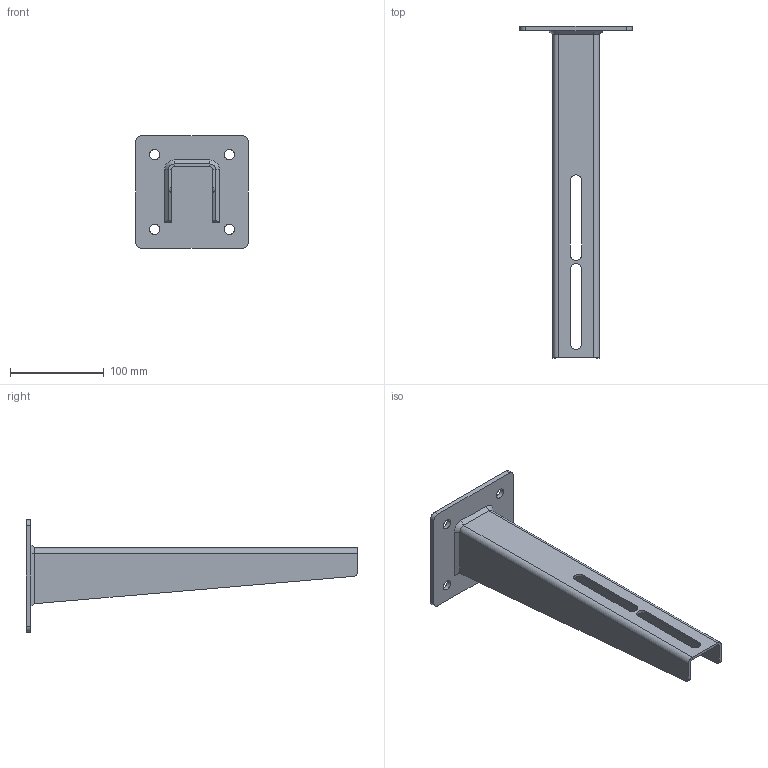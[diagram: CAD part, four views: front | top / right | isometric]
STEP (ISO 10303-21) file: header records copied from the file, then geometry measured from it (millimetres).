
FILE_DESCRIPTION((''),'2;1');
FILE_NAME('ST50-REGLABLE_SOUDEE_205-300_ASM','2020-01-15T',('Patrick'),(''),'PRO/ENGINEER BY PARAMETRIC TECHNOLOGY CORPORATION, 2016100','PRO/ENGINEER BY PARAMETRIC TECHNOLOGY CORPORATION, 2016100','');
FILE_SCHEMA(('CONFIG_CONTROL_DESIGN'));
Length unit declared in the file: millimetre
Products named in the file (3): ST50-001_REPA; TOLE_SUPPORT_ST50-REGL_205-300; ST50-REGLABLE_SOUDEE_205-300_ASM
Assembly tree (2 placements, depth 2):
  ST50-REGLABLE_SOUDEE_205-300_ASM
    ST50-001_REPA
    TOLE_SUPPORT_ST50-REGL_205-300
Bounding box: 120 x 355 x 120 mm (x, y, z)
Volume: 200084.8 mm3; surface area: 122926.6 mm2
Topology: 2 solids, 3 shells, 61 faces, 156 edges, 100 vertices
Faces by surface type: plane 33, cylinder 26, cone 2
Entity records: 1946 total; most frequent: DIRECTION 340, CARTESIAN_POINT 328, ORIENTED_EDGE 294, EDGE_CURVE 156, AXIS2_PLACEMENT_3D 120, VECTOR 100, LINE 100, VERTEX_POINT 100
